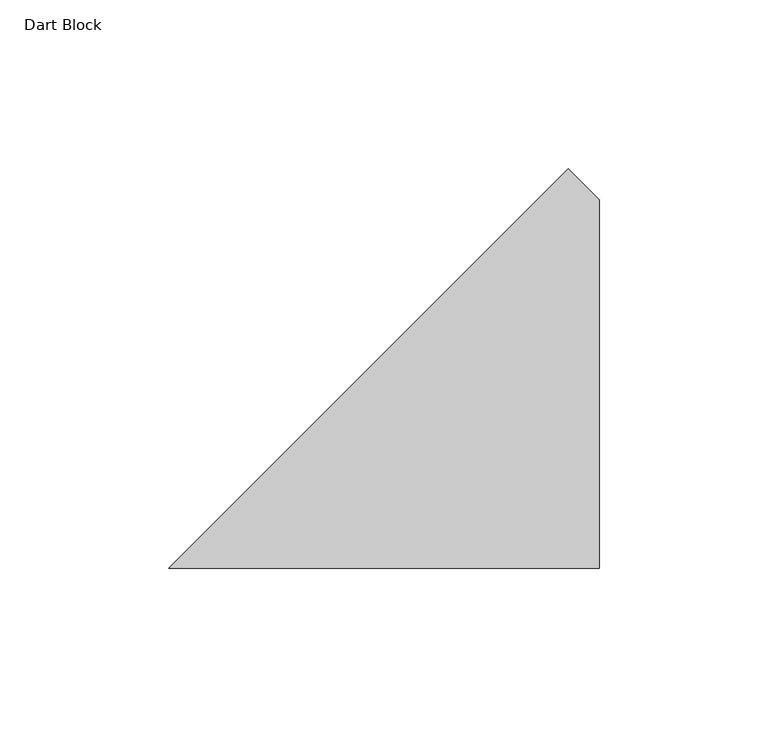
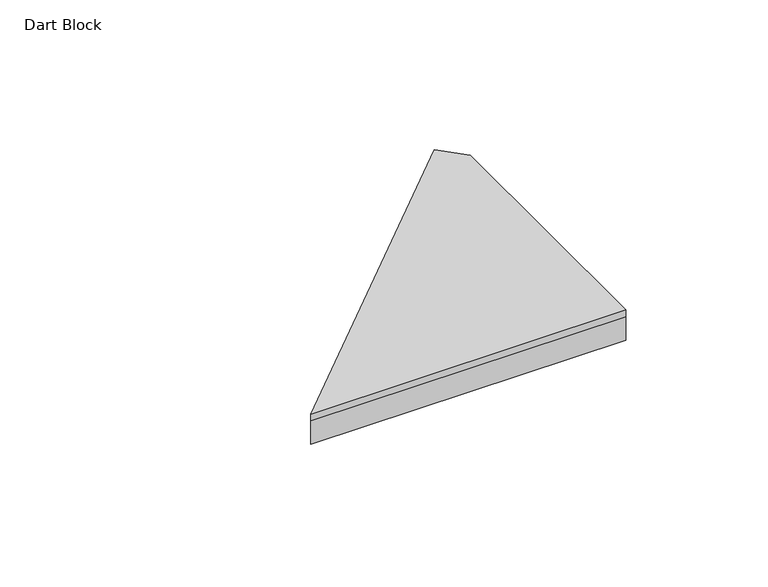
"""IFC4 building model written with IfcOpenShell, lengths in millimetres: proxy geometry, FilzFelt_Dart_Block : Dart Block."""

import ifcopenshell
import ifcopenshell.guid

model = None  # the IFC model being written
_history = None  # IfcOwnerHistory: only IFC2X3 demands one
_inside = {}  # id of a spatial element -> (the spatial element, [elements in it])
_under = {}  # id of a project, library or spatial element -> (it, [spatial elements below it])
_declared = {}  # id of a project -> (the project, [libraries it declares])
_typed = {}  # id of a type object -> (the type object, [elements of that type])
_made_of = {}  # id of a material, layer set ... -> (it, [elements and type objects made of it])


def new_model(schema):
    """Start an empty IFC model of exactly this schema.

    Asked for "IFC4X3", IfcOpenShell would pick the latest addendum, in which some entities
    have other attributes; the version numbers below select the first issue.
    IFC2X3 requires an IfcOwnerHistory on every rooted entity: one is made here for all.
    """
    global model, _history
    if schema == "IFC4X3":
        model = ifcopenshell.file(schema_version=(4, 3, 0, 0))
    else:
        model = ifcopenshell.file(schema=schema)
    _inside.clear()
    _under.clear()
    _declared.clear()
    _typed.clear()
    _made_of.clear()
    _history = None
    if model.schema == "IFC2X3":
        org = make("IfcOrganization", Name="unknown")
        user = make(
            "IfcPersonAndOrganization",
            ThePerson=make("IfcPerson", FamilyName="unknown"),
            TheOrganization=org,
        )
        app = make(
            "IfcApplication",
            ApplicationDeveloper=org,
            Version="unknown",
            ApplicationFullName="unknown",
            ApplicationIdentifier="unknown",
        )
        _history = make(
            "IfcOwnerHistory",
            OwningUser=user,
            OwningApplication=app,
            ChangeAction="ADDED",
            CreationDate=0,
        )
    return model


def make(cls, **values):
    """One entity of the class cls with the attributes given. An attribute that is None is left unset."""
    return model.create_entity(
        cls, **{name: value for name, value in values.items() if value is not None}
    )


def rooted(cls, **values):
    """An entity with a GlobalId (a new one), such as an element, a storey or a relation."""
    return make(cls, GlobalId=ifcopenshell.guid.new(), OwnerHistory=_history, **values)


def si_unit(unit_type, name, prefix=None):
    """IfcSIUnit, for example si_unit("LENGTHUNIT", "METRE", prefix="MILLI")."""
    return make("IfcSIUnit", UnitType=unit_type, Prefix=prefix, Name=name)


def assignment(units):
    """IfcUnitAssignment: the units of a project."""
    return None if units is None else make("IfcUnitAssignment", Units=units)


def point(xyz):
    """IfcCartesianPoint."""
    return None if xyz is None else make("IfcCartesianPoint", Coordinates=xyz)


def direction(xyz):
    """IfcDirection."""
    return None if xyz is None else make("IfcDirection", DirectionRatios=xyz)


def frame(location, z_axis=None, x_axis=None):
    """IfcAxis2Placement3D, a coordinate frame: its origin and axes. An axis left out is left unset."""
    return make(
        "IfcAxis2Placement3D",
        Location=point(location),
        Axis=direction(z_axis),
        RefDirection=direction(x_axis),
    )


def origin():
    """The frame at (0, 0, 0) with its axes left unset."""
    return frame((0.0, 0.0, 0.0))


def origin_with_axes():
    """The frame at (0, 0, 0) with the z axis (0, 0, 1) and the x axis (1, 0, 0) written out."""
    return frame((0.0, 0.0, 0.0), z_axis=(0.0, 0.0, 1.0), x_axis=(1.0, 0.0, 0.0))


def place(relative_to, where):
    """IfcLocalPlacement: puts the frame where relative to a parent placement (None: the world)."""
    return make(
        "IfcLocalPlacement", PlacementRelTo=relative_to, RelativePlacement=where
    )


def context(
    kind, dimensions, precision=None, world=None, true_north=None, identifier=None
):
    """IfcGeometricRepresentationContext, for example the 3D "Model" context."""
    return make(
        "IfcGeometricRepresentationContext",
        ContextIdentifier=identifier,
        ContextType=kind,
        CoordinateSpaceDimension=dimensions,
        Precision=precision,
        WorldCoordinateSystem=world,
        TrueNorth=true_north,
    )


def project(units=None, contexts=None):
    """IfcProject with its units and contexts."""
    return rooted(
        "IfcProject",
        Name="project",
        RepresentationContexts=contexts,
        UnitsInContext=assignment(units),
    )


def spatial(cls, under=None, at=None, **own):
    """A site, building, storey or space (cls), placed at a placement, below another one or the project."""
    s = rooted(cls, ObjectPlacement=at, **own)
    if under is not None:
        _under.setdefault(under.id(), (under, []))[1].append(s)
    return s


def polyline(points):
    """IfcPolyline through the points."""
    return make("IfcPolyline", Points=[point(p) for p in points])


def outline(outer, holes=None, kind="AREA"):
    """IfcArbitraryClosedProfileDef: a profile drawn as a closed curve; with holes, ...WithVoids."""
    if holes is None:
        return make("IfcArbitraryClosedProfileDef", ProfileType=kind, OuterCurve=outer)
    return make(
        "IfcArbitraryProfileDefWithVoids",
        ProfileType=kind,
        OuterCurve=outer,
        InnerCurves=holes,
    )


def extrude(swept, where, along, depth):
    """IfcExtrudedAreaSolid: the profile swept, set in the frame where, extruded along a direction by depth."""
    return make(
        "IfcExtrudedAreaSolid",
        SweptArea=swept,
        Position=where,
        ExtrudedDirection=direction(along),
        Depth=depth,
    )


def shape(context_of_items, identifier, shape_type, items):
    """IfcShapeRepresentation: the items that make up one representation, for example the "Body"."""
    return make(
        "IfcShapeRepresentation",
        ContextOfItems=context_of_items,
        RepresentationIdentifier=identifier,
        RepresentationType=shape_type,
        Items=items,
    )


def source(mapping_origin, context_of_items, identifier, shape_type, items):
    """IfcRepresentationMap: a shape defined once, which mapped items show again and again."""
    return make(
        "IfcRepresentationMap",
        MappingOrigin=mapping_origin,
        MappedRepresentation=shape(context_of_items, identifier, shape_type, items),
    )


def transform(
    local_origin,
    x_axis=None,
    y_axis=None,
    z_axis=None,
    scale=None,
    scale2=None,
    scale3=None,
    uniform=True,
):
    """IfcCartesianTransformationOperator3D, or its non-uniform kind. x_axis, y_axis, z_axis: its Axis1, 2, 3."""
    if uniform:
        return make(
            "IfcCartesianTransformationOperator3D",
            Axis1=direction(x_axis),
            Axis2=direction(y_axis),
            LocalOrigin=point(local_origin),
            Scale=scale,
            Axis3=direction(z_axis),
        )
    return make(
        "IfcCartesianTransformationOperator3DnonUniform",
        Axis1=direction(x_axis),
        Axis2=direction(y_axis),
        LocalOrigin=point(local_origin),
        Scale=scale,
        Axis3=direction(z_axis),
        Scale2=scale2,
        Scale3=scale3,
    )


def mapped(mapping_source, mapping_target):
    """IfcMappedItem: shows the shape of a source again, moved by a transform."""
    return make(
        "IfcMappedItem", MappingSource=mapping_source, MappingTarget=mapping_target
    )


def made_of(thing, what):
    """Note that an element or type object is made of a material, layer set ...; save() writes the relation."""
    if what is not None:
        _made_of.setdefault(what.id(), (what, []))[1].append(thing)
    return thing


def element(
    cls,
    number,
    at=None,
    inside=None,
    cuts=None,
    type_object=None,
    material=None,
    context=None,
    identifier="Body",
    shape_type=None,
    held_by="IfcProductDefinitionShape",
    body=None,
    shapes=None,
    **own,
):
    """One element of the class cls, such as IfcWall. Its Tag is "e" and its number.

    at: its placement. inside: the storey or other place that contains it. cuts: it is an
    opening in that element (IfcRelVoidsElement). A single representation is given by context,
    identifier, shape_type and body (its items); several are given by shapes. held_by: the class
    of the entity that holds the representations. save() writes the other relations.
    """
    e = rooted(cls, Tag="e%d" % number, ObjectPlacement=at, **own)
    if body is not None:
        shapes = [shape(context, identifier, shape_type, body)]
    if shapes is not None:
        e.Representation = make(held_by, Representations=shapes)
    if inside is not None:
        _inside.setdefault(inside.id(), (inside, []))[1].append(e)
    if cuts is not None:
        rooted(
            "IfcRelVoidsElement", RelatingBuildingElement=cuts, RelatedOpeningElement=e
        )
    if type_object is not None:
        _typed.setdefault(type_object.id(), (type_object, []))[1].append(e)
    return made_of(e, material)


def aggregate(whole, parts):
    """IfcRelAggregates: a whole, such as a stair, and the parts it consists of."""
    return rooted("IfcRelAggregates", RelatingObject=whole, RelatedObjects=parts)


def save(model, path):
    """Write the relations noted so far, then the file.

    IfcRelAggregates (storeys below a building ...), IfcRelContainedInSpatialStructure (elements
    in a storey), IfcRelDefinesByType, IfcRelAssociatesMaterial and IfcRelDeclares: one each for
    every whole, place, type object, material and project.
    """
    for whole, parts in _under.values():
        aggregate(whole, parts)
    for where, things in _inside.values():
        rooted(
            "IfcRelContainedInSpatialStructure",
            RelatedElements=things,
            RelatingStructure=where,
        )
    for kind, things in _typed.values():
        rooted("IfcRelDefinesByType", RelatedObjects=things, RelatingType=kind)
    for what, things in _made_of.values():
        rooted("IfcRelAssociatesMaterial", RelatedObjects=things, RelatingMaterial=what)
    for by, libraries in _declared.values():
        rooted("IfcRelDeclares", RelatingContext=by, RelatedDefinitions=libraries)
    model.write(path)


def dart_block_ae4a8284(model_context):
    return source(origin(), model_context, "Body", "SweptSolid", [
        extrude(outline(polyline([(-118.5423284, 71.9576716), (0.0, 190.5), (9.2936857, 181.2063143), (9.2936857, 71.9576716), (-118.5423284, 71.9576716)])), frame((0.0, 0.0, 10.0210937), z_axis=(0.0, 0.0, 1.0), x_axis=(1.0, 0.0, 0.0)), (0.0, 0.0, 1.0), 2.9765625),
        extrude(outline(polyline([(-118.5423284, 71.9576716), (0.0, 190.5), (9.2936857, 181.2063143), (9.2936857, 71.9576716), (-118.5423284, 71.9576716)])), origin_with_axes(), (0.0, 0.0, 1.0), 10.0210938),
    ])


if __name__ == "__main__":
    model = new_model("IFC4")
    model_context = context("Model", 3, world=origin())
    ifc_project = project(units=[si_unit("LENGTHUNIT", "METRE", prefix="MILLI")], contexts=[model_context])
    site = spatial("IfcSite", under=ifc_project)
    building = spatial("IfcBuilding", under=site)
    placement = place(None, origin())
    dart_block_shape = dart_block_ae4a8284(model_context)
    element("IfcBuildingElementProxy", 1, Name="FilzFelt_Dart_Block : Dart Block", ObjectType="FilzFelt_Dart_Block : Dart Block", at=placement, inside=building, context=model_context, shape_type="MappedRepresentation", body=[
        mapped(dart_block_shape, transform((0.0, 0.0, 0.0), x_axis=(1.0, 0.0, 0.0), y_axis=(0.0, 1.0, 0.0), z_axis=(0.0, 0.0, 1.0))),
    ])
    save(model, "model.ifc")
